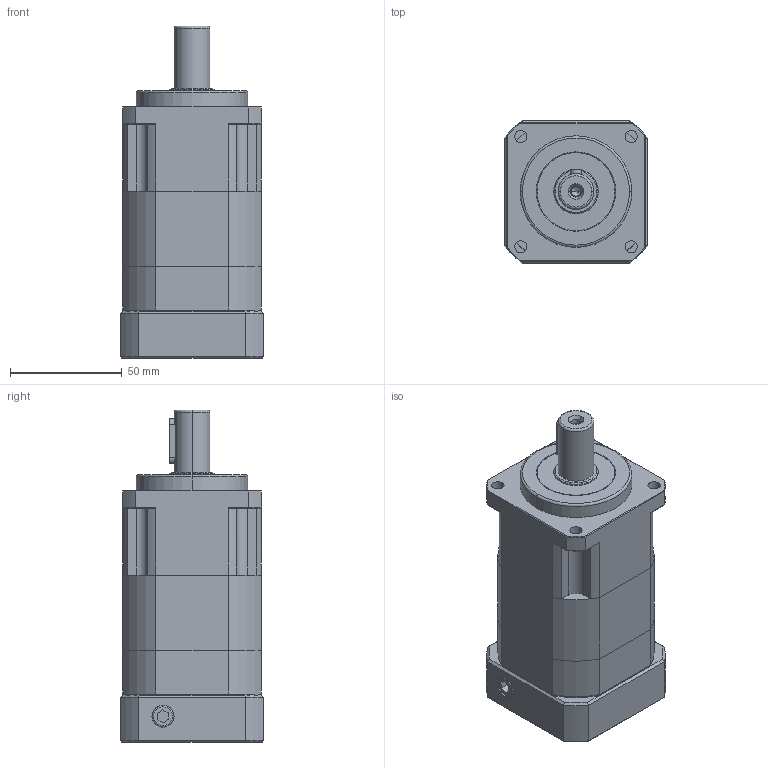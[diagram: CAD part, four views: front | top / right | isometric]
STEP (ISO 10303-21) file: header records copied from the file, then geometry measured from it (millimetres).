
FILE_DESCRIPTION (( 'STEP AP203' ), '1' );
FILE_NAME ('SB62A-2-40M5.STEP', '2011-07-11T09:00:18', ( '1' ), ( '' ), 'SwSTEP 2.0', 'SolidWorks 2011', '' );
FILE_SCHEMA (( 'CONFIG_CONTROL_DESIGN' ));
Length unit declared in the file: millimetre
Products named in the file (1): SB62A-2-40M5
Bounding box: 64 x 64 x 148.8 mm (x, y, z)
Volume: 304013.6 mm3; surface area: 86739.2 mm2
Topology: 17 solids, 17 shells, 617 faces, 1472 edges, 909 vertices
Faces by surface type: plane 273, cylinder 200, cone 113, torus 22, bspline 9
Entity records: 18738 total; most frequent: CARTESIAN_POINT 4230, DIRECTION 3113, ORIENTED_EDGE 2888, EDGE_CURVE 1444, AXIS2_PLACEMENT_3D 1172, VERTEX_POINT 909, VECTOR 769, LINE 769
